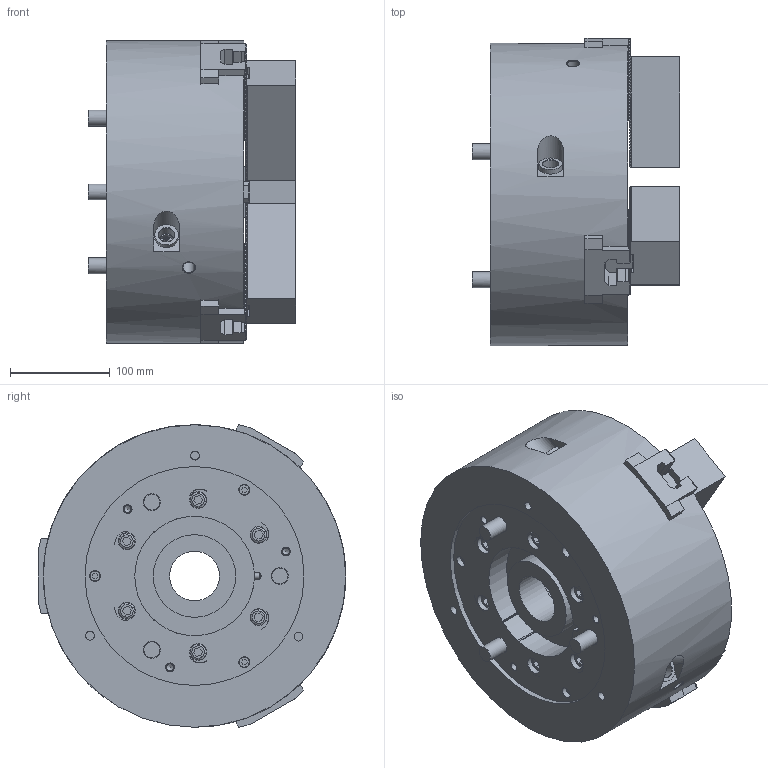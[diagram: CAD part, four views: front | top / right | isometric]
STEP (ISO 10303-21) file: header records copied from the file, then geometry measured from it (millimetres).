
FILE_DESCRIPTION (( 'STEP AP214' ), '1' );
FILE_NAME ('BL-212_61P275983-0_UC.STEP', '2020-03-24T08:09:35', ( '' ), ( '' ), 'SwSTEP 2.0', 'SolidWorks 2017', '' );
FILE_SCHEMA (( 'AUTOMOTIVE_DESIGN' ));
Length unit declared in the file: millimetre
Products named in the file (18): 61P417264 T僫僢僩b_g; 俛傾僫僣僉 M16x4016x40; Part1^61P228037_BL212_ASSY; 61P417264 T僫僢僩b_g_棉太倌佱UA; 俛傾僫僣僉 M16x4016x40_B迸路 M16X4016X40; Part1^61P228037_BL212_ASSY_蹬怮椔; 61P318349 ソフトジョー_W_‡_[; BL-212_61P275983-0_UC; 61P318349 ソフトジョー_W_‡_[_ﾃﾞﾌｫﾙﾄ_ATI≪UA
Assembly tree (13 placements, depth 2):
  61P417264 T僫僢僩b_g
  俛傾僫僣僉 M16x4016x40
  Part1^61P228037_BL212_ASSY
  俛傾僫僣僉 M16x4016x40
  俛傾僫僣僉 M16x4016x40
Bounding box: 208.2 x 309.05 x 304.29 mm (x, y, z)
Volume: 9945228.3 mm3; surface area: 575927.9 mm2
Topology: 13 solids, 22 shells, 3493 faces, 9871 edges, 6550 vertices
Faces by surface type: plane 3191, cylinder 173, bspline 72, cone 44, sphere 7, torus 6
Full cylindrical faces by diameter (mm): 1.9 x3, 6 x1, 6.8 x3, 8 x3, 8.8 x3, 9 x3, 10 x12, 10.5 x2, 11 x9, 12 x2, 14 x3, 16 x30, 17 x15, 23.5 x3, 24 x12, 25 x9, 50 x1, 63 x1, 67 x1, 76 x1, 83 x1, 220 x1, 304 x1
Entity records: 79290 total; most frequent: CARTESIAN_POINT 17003, ORIENTED_EDGE 13286, DIRECTION 11688, EDGE_CURVE 6643, LINE 6026, VECTOR 6026, VERTEX_POINT 4468, AXIS2_PLACEMENT_3D 2831
